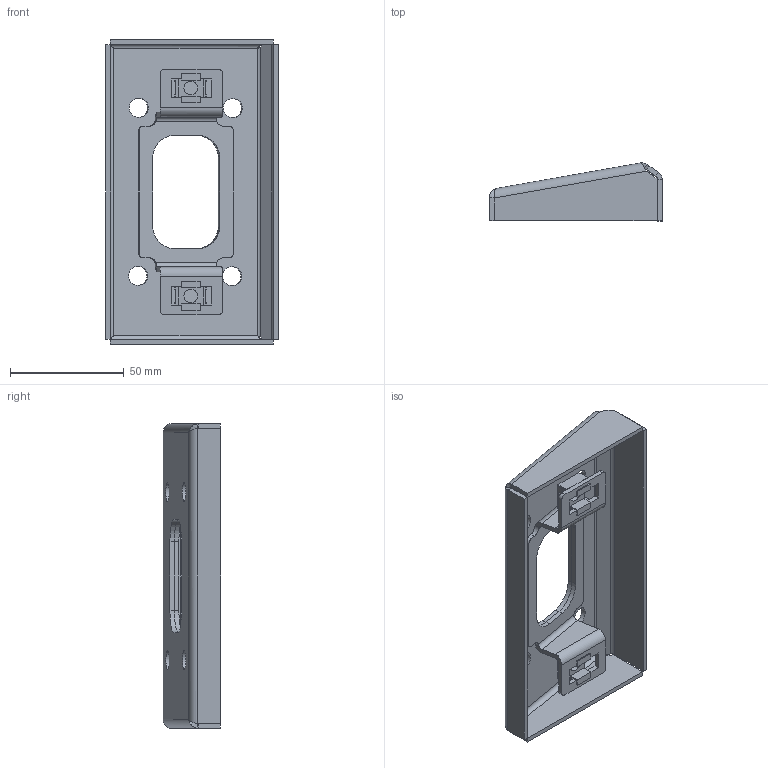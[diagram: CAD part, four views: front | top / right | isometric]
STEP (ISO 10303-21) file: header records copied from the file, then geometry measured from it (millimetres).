
FILE_DESCRIPTION (( 'STEP AP203' ), '1' );
FILE_NAME ('TP.045.6741.STEP', '2026-09-30T08:14:35', ( '' ), ( '' ), 'SwSTEP 2.0', 'SolidWorks 2015', '' );
FILE_SCHEMA (( 'CONFIG_CONTROL_DESIGN' ));
Length unit declared in the file: millimetre
Products named in the file (4): TP0456741_rev3_1; M6 kafes somun; TP.045.6741; TP0456741_rev3
Assembly tree (4 placements, depth 2):
  TP.045.6741
    TP0456741_rev3
    TP0456741_rev3_1
    M6 kafes somun  x2
Bounding box: 76.05 x 25.43 x 134 mm (x, y, z)
Volume: 36726.5 mm3; surface area: 40868.5 mm2
Topology: 4 solids, 4 shells, 264 faces, 668 edges, 414 vertices
Faces by surface type: plane 200, cylinder 50, bspline 14
Entity records: 7046 total; most frequent: CARTESIAN_POINT 1818, ORIENTED_EDGE 1020, DIRECTION 932, EDGE_CURVE 510, LINE 384, VECTOR 384, VERTEX_POINT 314, AXIS2_PLACEMENT_3D 274
